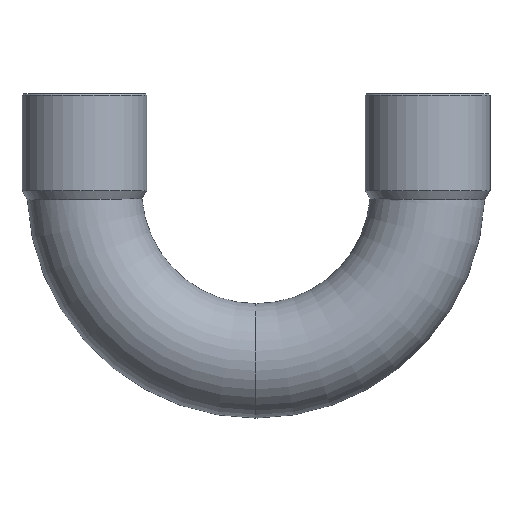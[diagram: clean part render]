
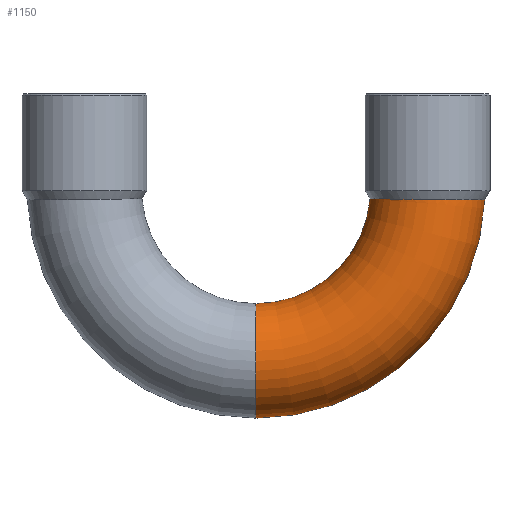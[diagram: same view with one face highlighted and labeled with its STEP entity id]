
A CAD part, front view. The second image highlights one B-rep face of the part: STEP entity #1150.
In plain terms, the highlighted toroidal (fillet/blend) face has major radius 27 mm and minor radius 9 mm.
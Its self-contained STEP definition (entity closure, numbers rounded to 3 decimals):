
#51=CARTESIAN_POINT('',(22.035,0.,-36.0));
#52=VERTEX_POINT('',#51);
#85=CARTESIAN_POINT('',(22.035,0.,-18.0));
#86=VERTEX_POINT('',#85);
#109=CARTESIAN_POINT('',(57.996,0.,-1.667));
#110=VERTEX_POINT('',#109);
#111=CARTESIAN_POINT('',(22.035,0.,0.0));
#112=DIRECTION('',(0.0,-1.0,0.0));
#113=DIRECTION('',(0.0,0.0,-1.0));
#114=AXIS2_PLACEMENT_3D('',#111,#112,#113);
#115=CIRCLE('',#114,36.0);
#116=EDGE_CURVE('',#52,#110,#115,.T.);
#119=CARTESIAN_POINT('',(39.973,0.,-1.493));
#120=VERTEX_POINT('',#119);
#121=CARTESIAN_POINT('',(22.035,0.,0.0));
#122=DIRECTION('',(0.0,1.0,0.0));
#123=DIRECTION('',(0.0,0.0,-1.0));
#124=AXIS2_PLACEMENT_3D('',#121,#122,#123);
#125=CIRCLE('',#124,18.0);
#126=EDGE_CURVE('',#120,#86,#125,.T.);
#1111=CARTESIAN_POINT('',(22.035,0.,0.0));
#1112=DIRECTION('',(0.0,-1.0,0.0));
#1113=DIRECTION('',(0.0,0.0,-1.0));
#1114=AXIS2_PLACEMENT_3D('',#1111,#1112,#1113);
#1115=TOROIDAL_SURFACE('',#1114,27.0,9.);
#1116=ORIENTED_EDGE('',*,*,#116,.T.);
#1117=CARTESIAN_POINT('',(57.996,0.,-1.667));
#1118=CARTESIAN_POINT('',(57.996,-0.663,-1.667));
#1119=CARTESIAN_POINT('',(57.923,-1.324,-1.666));
#1120=CARTESIAN_POINT('',(57.632,-2.618,-1.665));
#1121=CARTESIAN_POINT('',(57.416,-3.247,-1.663));
#1122=CARTESIAN_POINT('',(56.631,-4.907,-1.658));
#1123=CARTESIAN_POINT('',(55.927,-5.858,-1.654));
#1124=CARTESIAN_POINT('',(54.194,-7.439,-1.642));
#1125=CARTESIAN_POINT('',(53.18,-8.052,-1.635));
#1126=CARTESIAN_POINT('',(50.974,-8.857,-1.617));
#1127=CARTESIAN_POINT('',(49.802,-9.04,-1.607));
#1128=CARTESIAN_POINT('',(47.454,-8.946,-1.586));
#1129=CARTESIAN_POINT('',(46.3,-8.67,-1.574));
#1130=CARTESIAN_POINT('',(44.165,-7.693,-1.55));
#1131=CARTESIAN_POINT('',(43.203,-7.001,-1.538));
#1132=CARTESIAN_POINT('',(41.601,-5.289,-1.517));
#1133=CARTESIAN_POINT('',(40.976,-4.287,-1.508));
#1134=CARTESIAN_POINT('',(40.172,-2.172,-1.496));
#1135=CARTESIAN_POINT('',(39.973,-1.09,-1.493));
#1136=CARTESIAN_POINT('',(39.973,0.,-1.493));
#1137=B_SPLINE_CURVE_WITH_KNOTS('',3,(#1117,#1118,#1119,#1120,#1121,#1122,#1123,#1124,#1125,#1126,#1127,#1128,#1129,#1130,#1131,#1132,#1133,#1134,#1135,#1136),.UNSPECIFIED.,.F.,.U.,(4,2,2,2,2,2,2,2,2,4),(-5.675,-5.477,-5.278,-4.926,-4.574,-4.221,-3.869,-3.517,-3.166,-2.838),.UNSPECIFIED.);
#1138=EDGE_CURVE('',#110,#120,#1137,.T.);
#1139=ORIENTED_EDGE('',*,*,#1138,.T.);
#1140=ORIENTED_EDGE('',*,*,#126,.T.);
#1141=CARTESIAN_POINT('',(22.035,0.,-27.0));
#1142=DIRECTION('',(-1.0,0.0,0.0));
#1143=DIRECTION('',(0.0,0.0,-1.0));
#1144=AXIS2_PLACEMENT_3D('',#1141,#1142,#1143);
#1145=CIRCLE('',#1144,9.);
#1146=EDGE_CURVE('',#52,#86,#1145,.T.);
#1147=ORIENTED_EDGE('',*,*,#1146,.F.);
#1148=EDGE_LOOP('',(#1116,#1139,#1140,#1147));
#1149=FACE_OUTER_BOUND('',#1148,.T.);
#1150=ADVANCED_FACE('',(#1149),#1115,.T.);
